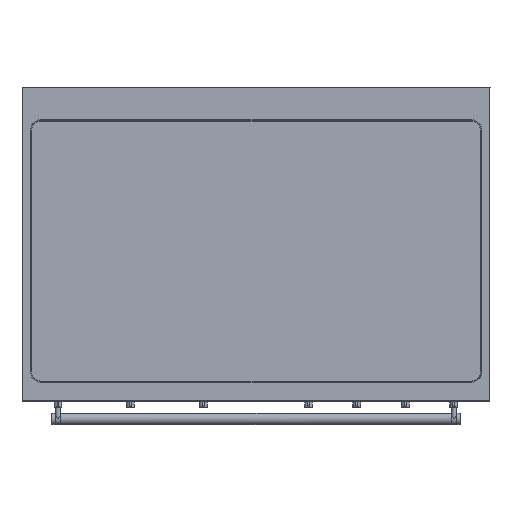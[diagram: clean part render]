
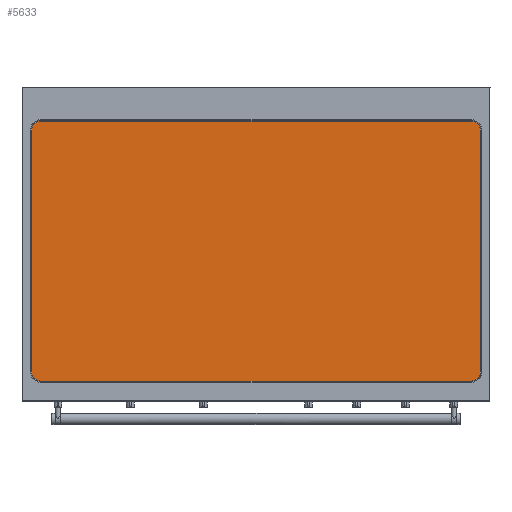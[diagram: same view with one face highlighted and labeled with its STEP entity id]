
A CAD part, top view. The second image highlights one B-rep face of the part: STEP entity #5633.
In plain terms, the highlighted planar face has unit normal (0, 0, 1).
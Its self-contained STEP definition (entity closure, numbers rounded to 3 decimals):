
#194=PLANE('',#8470);
#365=LINE('',#10805,#755);
#372=LINE('',#10825,#762);
#373=LINE('',#10827,#763);
#374=LINE('',#10833,#764);
#755=VECTOR('',#9120,1000.);
#762=VECTOR('',#9137,1000.);
#763=VECTOR('',#9140,1000.);
#764=VECTOR('',#9145,1000.);
#1163=ORIENTED_EDGE('',*,*,#2824,.F.);
#1164=ORIENTED_EDGE('',*,*,#2825,.T.);
#1165=ORIENTED_EDGE('',*,*,#2813,.F.);
#1166=ORIENTED_EDGE('',*,*,#2811,.T.);
#1167=ORIENTED_EDGE('',*,*,#2823,.F.);
#1168=ORIENTED_EDGE('',*,*,#2826,.T.);
#1169=ORIENTED_EDGE('',*,*,#2827,.F.);
#1170=ORIENTED_EDGE('',*,*,#2828,.T.);
#2811=EDGE_CURVE('',#3645,#3644,#4229,.T.);
#2813=EDGE_CURVE('',#3645,#3646,#365,.T.);
#2823=EDGE_CURVE('',#3653,#3644,#372,.T.);
#2824=EDGE_CURVE('',#3654,#3655,#373,.T.);
#2825=EDGE_CURVE('',#3654,#3646,#4233,.T.);
#2826=EDGE_CURVE('',#3653,#3656,#4234,.T.);
#2827=EDGE_CURVE('',#3657,#3656,#374,.T.);
#2828=EDGE_CURVE('',#3657,#3655,#4235,.T.);
#3644=VERTEX_POINT('',#10800);
#3645=VERTEX_POINT('',#10802);
#3646=VERTEX_POINT('',#10806);
#3653=VERTEX_POINT('',#10824);
#3654=VERTEX_POINT('',#10828);
#3655=VERTEX_POINT('',#10829);
#3656=VERTEX_POINT('',#10832);
#3657=VERTEX_POINT('',#10834);
#4229=CIRCLE('',#8463,17.5);
#4233=CIRCLE('',#8471,17.5);
#4234=CIRCLE('',#8472,17.5);
#4235=CIRCLE('',#8473,17.5);
#4562=EDGE_LOOP('',(#1163,#1164,#1165,#1166,#1167,#1168,#1169,#1170));
#5027=FACE_BOUND('',#4562,.T.);
#5633=ADVANCED_FACE('',(#5027),#194,.T.);
#8463=AXIS2_PLACEMENT_3D('',#10801,#9115,#9116);
#8470=AXIS2_PLACEMENT_3D('',#10826,#9138,#9139);
#8471=AXIS2_PLACEMENT_3D('',#10830,#9141,#9142);
#8472=AXIS2_PLACEMENT_3D('',#10831,#9143,#9144);
#8473=AXIS2_PLACEMENT_3D('',#10835,#9146,#9147);
#9115=DIRECTION('',(0.,0.,1.));
#9116=DIRECTION('',(0.707,0.707,0.));
#9120=DIRECTION('',(0.,1.,0.));
#9137=DIRECTION('',(-1.,0.,0.));
#9138=DIRECTION('',(0.,0.,1.));
#9139=DIRECTION('',(1.,0.,0.));
#9140=DIRECTION('',(1.,0.,0.));
#9141=DIRECTION('',(0.,0.,1.));
#9142=DIRECTION('',(1.,0.,0.));
#9143=DIRECTION('',(0.,0.,1.));
#9144=DIRECTION('',(1.,0.,0.));
#9145=DIRECTION('',(0.,-1.,0.));
#9146=DIRECTION('',(0.,0.,1.));
#9147=DIRECTION('',(1.,0.,0.));
#10800=CARTESIAN_POINT('',(-895.84,-261.581,476.75));
#10801=CARTESIAN_POINT('',(-895.84,-244.081,476.75));
#10802=CARTESIAN_POINT('',(-913.34,-244.081,476.75));
#10805=CARTESIAN_POINT('',(-913.34,-244.081,476.75));
#10806=CARTESIAN_POINT('',(-913.34,219.919,476.75));
#10824=CARTESIAN_POINT('',(-69.84,-261.581,476.75));
#10825=CARTESIAN_POINT('',(-69.84,-261.581,476.75));
#10826=CARTESIAN_POINT('',(-482.84,-12.081,476.75));
#10827=CARTESIAN_POINT('',(-895.84,237.419,476.75));
#10828=CARTESIAN_POINT('',(-895.84,237.419,476.75));
#10829=CARTESIAN_POINT('',(-69.84,237.419,476.75));
#10830=CARTESIAN_POINT('',(-895.84,219.919,476.75));
#10831=CARTESIAN_POINT('',(-69.84,-244.081,476.75));
#10832=CARTESIAN_POINT('',(-52.34,-244.081,476.75));
#10833=CARTESIAN_POINT('',(-52.34,219.919,476.75));
#10834=CARTESIAN_POINT('',(-52.34,219.919,476.75));
#10835=CARTESIAN_POINT('',(-69.84,219.919,476.75));
